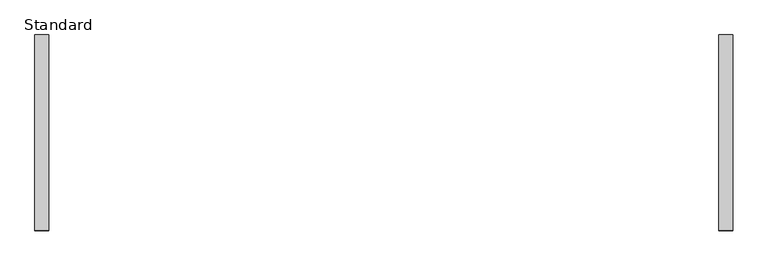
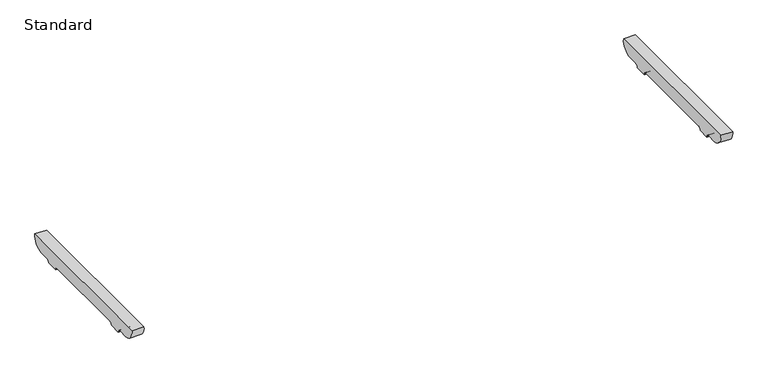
"""IFC4 building model written with IfcOpenShell, lengths in millimetres: furniture geometry, BDG_BossDesign_Tbls_AgentTables4Legs_Nested : Standard."""

from ifc_helpers import new_model, si_unit, point, frame, frame_2d, origin, place, context, project, spatial, polyline, circle_curve, trimmed, segment, composite_curve, outline, extrude, source, transform, mapped, element, save


def standard_51391d5e(model_context):
    return source(origin(), model_context, "Body", "SweptSolid", [
        extrude(outline(composite_curve([segment(polyline([(280.5450184, 672.0), (242.7000122, 672.0)]), True, "CONTINUOUS"), segment(trimmed(circle_curve(frame_2d((242.7000122, 660.0)), 12.0), [point((242.7000122, 672.0))], [point((230.7000122, 660.0))], True, "CARTESIAN"), True, "CONTINUOUS"), segment(polyline([(230.7000122, 660.0), (185.7000122, 660.0)]), True, "CONTINUOUS"), segment(trimmed(circle_curve(frame_2d((173.7000122, 660.0)), 12.0), [point((185.7000122, 660.0))], [point((173.7000122, 672.0))], True, "CARTESIAN"), True, "CONTINUOUS"), segment(polyline([(173.7000122, 672.0), (-173.7000122, 672.0)]), True, "CONTINUOUS"), segment(trimmed(circle_curve(frame_2d((-173.7000122, 660.0)), 12.0), [point((-173.7000122, 672.0))], [point((-185.7000122, 660.0))], True, "CARTESIAN"), True, "CONTINUOUS"), segment(polyline([(-185.7000122, 660.0), (-230.7000122, 660.0)]), True, "CONTINUOUS"), segment(trimmed(circle_curve(frame_2d((-242.7000122, 660.0)), 12.0), [point((-230.7000122, 660.0))], [point((-242.7000122, 672.0))], True, "CARTESIAN"), True, "CONTINUOUS"), segment(polyline([(-242.7000122, 672.0), (-280.5450184, 672.0)]), True, "CONTINUOUS"), segment(trimmed(circle_curve(frame_2d((-278.2220439, 716.5514119)), 44.6119324), [point((-280.5450184, 672.0))], [point((-322.5, 722.0))], False, "CARTESIAN"), True, "CONTINUOUS"), segment(polyline([(-322.5, 722.0), (322.5, 722.0)]), True, "CONTINUOUS"), segment(trimmed(circle_curve(frame_2d((278.2220439, 716.5514119)), 44.6119324), [point((322.5, 722.0))], [point((280.5450184, 672.0))], False, "CARTESIAN"), True, "CONTINUOUS")], self_intersect=False)), frame((1105.0, 0.0, 0.0), z_axis=(1.0, 0.0, 0.0), x_axis=(0.0, 1.0, 0.0)), (0.0, 0.0, 1.0), 45.0),
        extrude(outline(composite_curve([segment(polyline([(280.5450184, 672.0), (242.7000122, 672.0)]), True, "CONTINUOUS"), segment(trimmed(circle_curve(frame_2d((242.7000122, 660.0)), 12.0), [point((242.7000122, 672.0))], [point((230.7000122, 660.0))], True, "CARTESIAN"), True, "CONTINUOUS"), segment(polyline([(230.7000122, 660.0), (185.7000122, 660.0)]), True, "CONTINUOUS"), segment(trimmed(circle_curve(frame_2d((173.7000122, 660.0)), 12.0), [point((185.7000122, 660.0))], [point((173.7000122, 672.0))], True, "CARTESIAN"), True, "CONTINUOUS"), segment(polyline([(173.7000122, 672.0), (-173.7000122, 672.0)]), True, "CONTINUOUS"), segment(trimmed(circle_curve(frame_2d((-173.7000122, 660.0)), 12.0), [point((-173.7000122, 672.0))], [point((-185.7000122, 660.0))], True, "CARTESIAN"), True, "CONTINUOUS"), segment(polyline([(-185.7000122, 660.0), (-230.7000122, 660.0)]), True, "CONTINUOUS"), segment(trimmed(circle_curve(frame_2d((-242.7000122, 660.0)), 12.0), [point((-230.7000122, 660.0))], [point((-242.7000122, 672.0))], True, "CARTESIAN"), True, "CONTINUOUS"), segment(polyline([(-242.7000122, 672.0), (-280.5450184, 672.0)]), True, "CONTINUOUS"), segment(trimmed(circle_curve(frame_2d((-278.2220439, 716.5514119)), 44.6119324), [point((-280.5450184, 672.0))], [point((-322.5, 722.0))], False, "CARTESIAN"), True, "CONTINUOUS"), segment(polyline([(-322.5, 722.0), (322.5, 722.0)]), True, "CONTINUOUS"), segment(trimmed(circle_curve(frame_2d((278.2220439, 716.5514119)), 44.6119324), [point((322.5, 722.0))], [point((280.5450184, 672.0))], False, "CARTESIAN"), True, "CONTINUOUS")], self_intersect=False)), frame((-1150.0, 0.0, 0.0), z_axis=(1.0, 0.0, 0.0), x_axis=(0.0, 1.0, 0.0)), (0.0, 0.0, 1.0), 45.0),
    ])


if __name__ == "__main__":
    model = new_model("IFC4")
    model_context = context("Model", 3, world=origin())
    ifc_project = project(units=[si_unit("LENGTHUNIT", "METRE", prefix="MILLI")], contexts=[model_context])
    site = spatial("IfcSite", under=ifc_project)
    building = spatial("IfcBuilding", under=site)
    placement = place(None, origin())
    standard_shape = standard_51391d5e(model_context)
    element("IfcFurniture", 1, ObjectType="BDG_BossDesign_Tbls_AgentTables4Legs_Nested : Standard", at=placement, inside=building, context=model_context, shape_type="MappedRepresentation", body=[
        mapped(standard_shape, transform((0.0, 0.0, 0.0), x_axis=(1.0, 0.0, 0.0), y_axis=(0.0, 1.0, 0.0), z_axis=(0.0, 0.0, 1.0))),
    ])
    save(model, "model.ifc")
